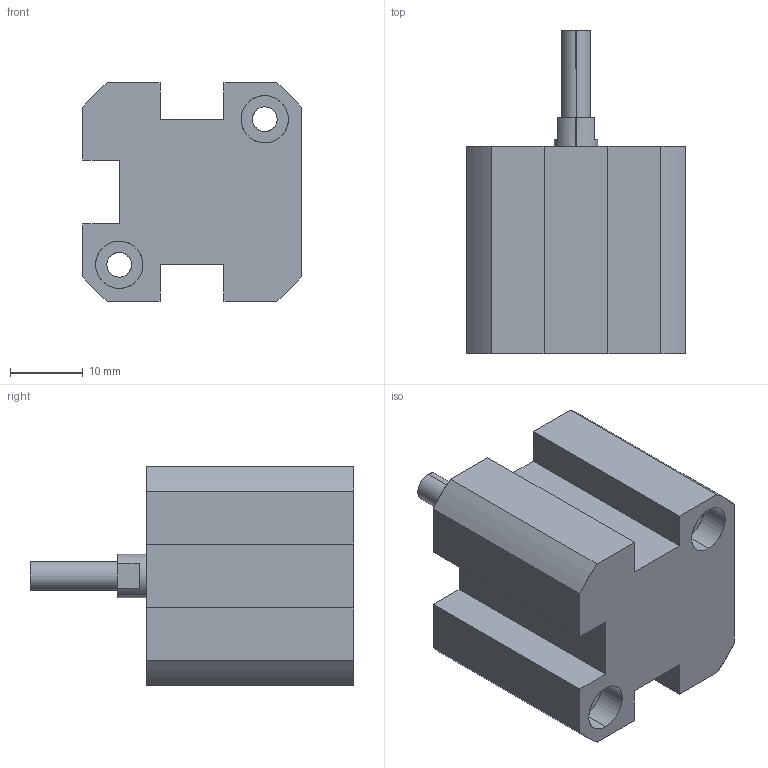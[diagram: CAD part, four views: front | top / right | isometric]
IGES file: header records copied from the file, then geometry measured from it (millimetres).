
Start section: SolidWorks IGES file using analytic representation for surfaces
Global section: file name: C:\Users\Toshiba\Desktop\XC#M1-16-10.IGS; native system: SolidWorks 2014; preprocessor: SolidWorks 2014; author: Toshiba; date: 160523.163649; units: millimetre
Bounding box: 30 x 44.5 x 30 mm (x, y, z)
Surface area: 6853.7 mm2 (no closed solid volume)
Topology: 0 solids, 0 shells, 72 faces, 1147 edges, 1145 vertices
Faces by surface type: revolution 39, bspline 33
